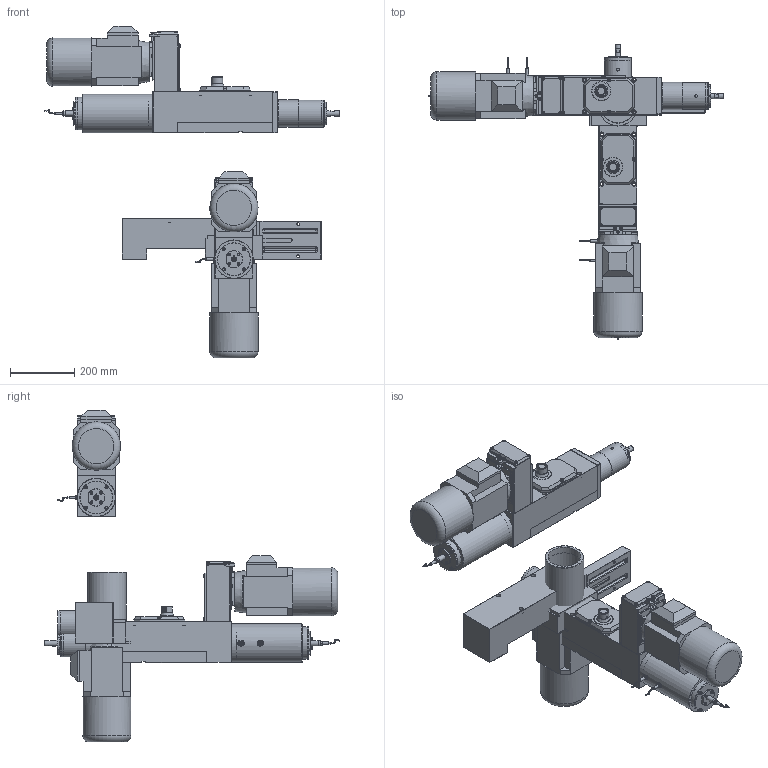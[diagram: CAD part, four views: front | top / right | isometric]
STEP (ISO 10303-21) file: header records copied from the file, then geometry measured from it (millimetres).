
FILE_DESCRIPTION( ( 'STEP AP203' ), '1' );
FILE_NAME( 'C:/Documents and Settings/Saverio/Desktop/disegni ironcad/unità serie 1/MC 112 A/MC 112 A_A01_P.stp', '2014-03-25T08:26:44', ( ' ' ), ( ' ' ), 'XStep 1.0', ' ', ' ' );
FILE_SCHEMA( ( 'CONFIG_CONTROL_DESIGN' ) );
Length unit declared in the file: metre
Products named in the file (58): Assem1; Assem2; Assem3; 1; 2; 3; 4; 5; 6; 7; 8; 9; 10; 11; 12; 13; 14; 15; 16; 17; 18; 19; 20; 21; 22; 23; 24; 25; 26; 27; 28; 29; 30; 31; 32; 33; 34; 35; 36; 37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
Bounding box: 917.75 x 919.55 x 1032.13 mm (x, y, z)
Volume: 41541060.7 mm3; surface area: 3820565.7 mm2
Topology: 165 solids, 165 shells, 3432 faces, 7689 edges, 4800 vertices
Faces by surface type: plane 2031, cylinder 774, cone 501, sphere 60, bspline 42, torus 24
Full cylindrical faces by diameter (mm): 3 x3, 4.134 x3, 4.5 x12, 5 x51, 5.5 x15, 6 x33, 6.5 x6, 6.75 x12, 6.9 x12, 7 x15, 8 x9, 8.385 x15, 8.5 x27, 9.87 x24, 12 x6, 13.5 x12, 16 x3, 18 x9, 20 x3, 23 x3, 28.9 x3, 30 x6, 32 x12, 41 x3, 50 x6, 52 x3, 52.5 x3, 53.1 x3, 54 x6, 54.4 x3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
Entity records: 35134 total; most frequent: CARTESIAN_POINT 8389, DIRECTION 5019, ORIENTED_EDGE 4522, EDGE_CURVE 2261, AXIS2_PLACEMENT_3D 1864, EDGE_LOOP 1562, VERTEX_POINT 1555, LINE 1291
